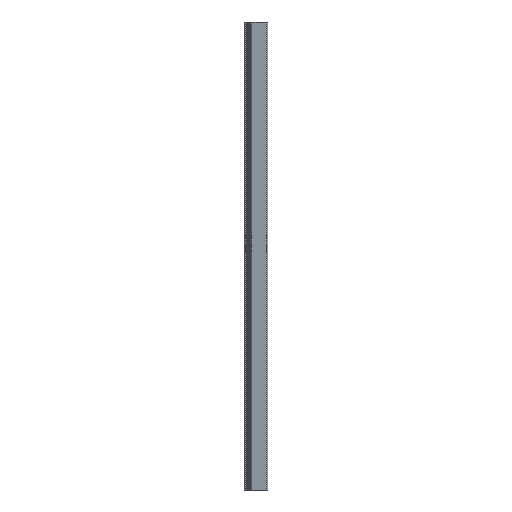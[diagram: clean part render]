
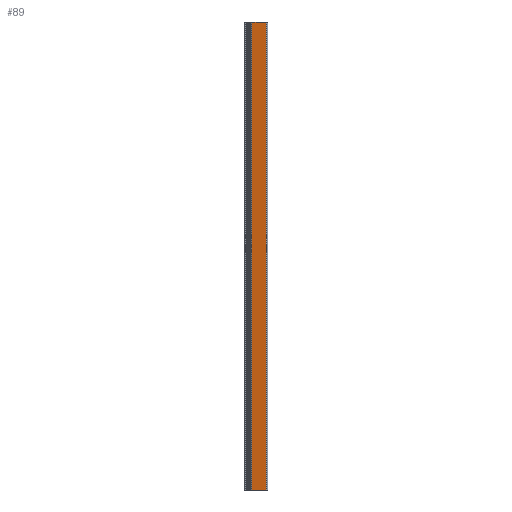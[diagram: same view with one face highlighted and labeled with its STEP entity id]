
A CAD part, left-side view. The second image highlights one B-rep face of the part: STEP entity #89.
In plain terms, the highlighted planar face has unit normal (-0.978, 0.209, 0).
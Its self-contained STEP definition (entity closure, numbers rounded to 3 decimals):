
#89 = ADVANCED_FACE ( 'NONE', ( #914 ), #124, .F. ) ;
#93 = VECTOR ( 'NONE', #872, 1000. ) ;
#102 = DIRECTION ( 'NONE',  ( 0., 0., -1. ) ) ;
#124 = PLANE ( 'NONE',  #227 ) ;
#133 = CARTESIAN_POINT ( 'NONE',  ( -17.87, 0.605, 0. ) ) ;
#148 = VERTEX_POINT ( 'NONE', #208 ) ;
#208 = CARTESIAN_POINT ( 'NONE',  ( -16.553, 6.755, 0. ) ) ;
#227 = AXIS2_PLACEMENT_3D ( 'NONE', #1047, #503, #860 ) ;
#352 = LINE ( 'NONE', #436, #703 ) ;
#402 = VERTEX_POINT ( 'NONE', #916 ) ;
#411 = CARTESIAN_POINT ( 'NONE',  ( -16.553, 6.755, -200. ) ) ;
#436 = CARTESIAN_POINT ( 'NONE',  ( -18., 0., -200. ) ) ;
#448 = ORIENTED_EDGE ( 'NONE', *, *, #574, .T. ) ;
#476 = CARTESIAN_POINT ( 'NONE',  ( -16.553, 6.755, -200. ) ) ;
#503 = DIRECTION ( 'NONE',  ( 0.978, -0.21, 0. ) ) ;
#509 = EDGE_LOOP ( 'NONE', ( #1168, #1038, #965, #448 ) ) ;
#512 = LINE ( 'NONE', #133, #93 ) ;
#574 = EDGE_CURVE ( 'NONE', #750, #402, #512, .T. ) ;
#610 = CARTESIAN_POINT ( 'NONE',  ( -17.87, 0.605, -200. ) ) ;
#622 = VERTEX_POINT ( 'NONE', #411 ) ;
#665 = LINE ( 'NONE', #476, #718 ) ;
#703 = VECTOR ( 'NONE', #1162, 1000. ) ;
#718 = VECTOR ( 'NONE', #102, 1000. ) ;
#750 = VERTEX_POINT ( 'NONE', #610 ) ;
#774 = EDGE_CURVE ( 'NONE', #750, #622, #352, .T. ) ;
#844 = DIRECTION ( 'NONE',  ( 0.21, 0.978, 0. ) ) ;
#848 = CARTESIAN_POINT ( 'NONE',  ( -18., 0., 0. ) ) ;
#860 = DIRECTION ( 'NONE',  ( 0.21, 0.978, 0. ) ) ;
#872 = DIRECTION ( 'NONE',  ( 0., 0., 1. ) ) ;
#914 = FACE_OUTER_BOUND ( 'NONE', #509, .T. ) ;
#916 = CARTESIAN_POINT ( 'NONE',  ( -17.87, 0.605, 0. ) ) ;
#921 = VECTOR ( 'NONE', #844, 1000. ) ;
#938 = LINE ( 'NONE', #848, #921 ) ;
#965 = ORIENTED_EDGE ( 'NONE', *, *, #774, .F. ) ;
#1038 = ORIENTED_EDGE ( 'NONE', *, *, #1060, .T. ) ;
#1047 = CARTESIAN_POINT ( 'NONE',  ( -18., 0., -200. ) ) ;
#1060 = EDGE_CURVE ( 'NONE', #148, #622, #665, .T. ) ;
#1132 = EDGE_CURVE ( 'NONE', #402, #148, #938, .T. ) ;
#1162 = DIRECTION ( 'NONE',  ( 0.21, 0.978, 0. ) ) ;
#1168 = ORIENTED_EDGE ( 'NONE', *, *, #1132, .T. ) ;
